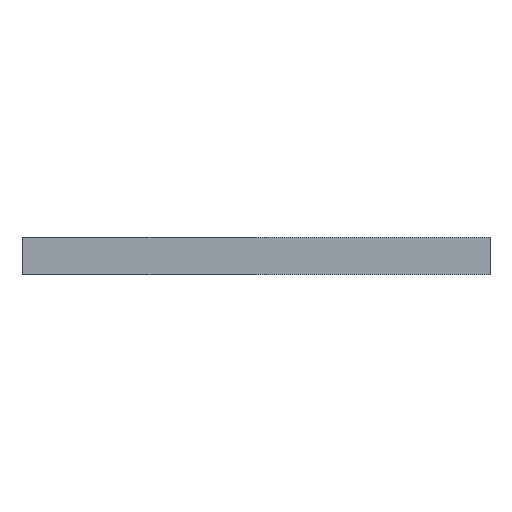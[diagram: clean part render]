
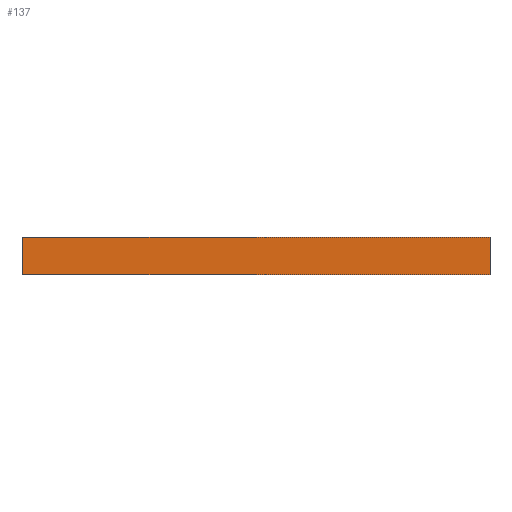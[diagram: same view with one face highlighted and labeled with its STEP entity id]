
A CAD part, front view. The second image highlights one B-rep face of the part: STEP entity #137.
In plain terms, the highlighted planar face has unit normal (0, -1, 0).
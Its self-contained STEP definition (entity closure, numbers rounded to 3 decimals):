
#21 = EDGE_CURVE('',#22,#24,#26,.T.);
#22 = VERTEX_POINT('',#23);
#23 = CARTESIAN_POINT('',(0.,0.,0.));
#24 = VERTEX_POINT('',#25);
#25 = CARTESIAN_POINT('',(0.,0.,1.2));
#26 = SURFACE_CURVE('',#27,(#31,#43),.PCURVE_S1.);
#27 = LINE('',#28,#29);
#28 = CARTESIAN_POINT('',(0.,0.,0.));
#29 = VECTOR('',#30,1.);
#30 = DIRECTION('',(0.,0.,1.));
#31 = PCURVE('',#32,#37);
#32 = PLANE('',#33);
#33 = AXIS2_PLACEMENT_3D('',#34,#35,#36);
#34 = CARTESIAN_POINT('',(0.,0.,0.));
#35 = DIRECTION('',(1.,0.,0.));
#36 = DIRECTION('',(0.,0.,1.));
#37 = DEFINITIONAL_REPRESENTATION('',(#38),#42);
#38 = LINE('',#39,#40);
#39 = CARTESIAN_POINT('',(0.,0.));
#40 = VECTOR('',#41,1.);
#41 = DIRECTION('',(1.,0.));
#42 = ( GEOMETRIC_REPRESENTATION_CONTEXT(2) 
PARAMETRIC_REPRESENTATION_CONTEXT() REPRESENTATION_CONTEXT('2D SPACE',''
  ) );
#43 = PCURVE('',#44,#49);
#44 = PLANE('',#45);
#45 = AXIS2_PLACEMENT_3D('',#46,#47,#48);
#46 = CARTESIAN_POINT('',(0.,0.,0.));
#47 = DIRECTION('',(0.,1.,0.));
#48 = DIRECTION('',(0.,0.,1.));
#49 = DEFINITIONAL_REPRESENTATION('',(#50),#54);
#50 = LINE('',#51,#52);
#51 = CARTESIAN_POINT('',(0.,0.));
#52 = VECTOR('',#53,1.);
#53 = DIRECTION('',(1.,0.));
#54 = ( GEOMETRIC_REPRESENTATION_CONTEXT(2) 
PARAMETRIC_REPRESENTATION_CONTEXT() REPRESENTATION_CONTEXT('2D SPACE',''
  ) );
#72 = PLANE('',#73);
#73 = AXIS2_PLACEMENT_3D('',#74,#75,#76);
#74 = CARTESIAN_POINT('',(0.,0.,0.));
#75 = DIRECTION('',(0.,0.,1.));
#76 = DIRECTION('',(1.,0.,0.));
#126 = PLANE('',#127);
#127 = AXIS2_PLACEMENT_3D('',#128,#129,#130);
#128 = CARTESIAN_POINT('',(0.,0.,1.2));
#129 = DIRECTION('',(0.,0.,1.));
#130 = DIRECTION('',(1.,0.,0.));
#137 = ADVANCED_FACE('',(#138),#44,.F.);
#138 = FACE_BOUND('',#139,.F.);
#139 = EDGE_LOOP('',(#140,#163,#164,#187));
#140 = ORIENTED_EDGE('',*,*,#141,.F.);
#141 = EDGE_CURVE('',#22,#142,#144,.T.);
#142 = VERTEX_POINT('',#143);
#143 = CARTESIAN_POINT('',(15.,0.,0.));
#144 = SURFACE_CURVE('',#145,(#149,#156),.PCURVE_S1.);
#145 = LINE('',#146,#147);
#146 = CARTESIAN_POINT('',(0.,0.,0.));
#147 = VECTOR('',#148,1.);
#148 = DIRECTION('',(1.,0.,0.));
#149 = PCURVE('',#44,#150);
#150 = DEFINITIONAL_REPRESENTATION('',(#151),#155);
#151 = LINE('',#152,#153);
#152 = CARTESIAN_POINT('',(0.,0.));
#153 = VECTOR('',#154,1.);
#154 = DIRECTION('',(0.,1.));
#155 = ( GEOMETRIC_REPRESENTATION_CONTEXT(2) 
PARAMETRIC_REPRESENTATION_CONTEXT() REPRESENTATION_CONTEXT('2D SPACE',''
  ) );
#156 = PCURVE('',#72,#157);
#157 = DEFINITIONAL_REPRESENTATION('',(#158),#162);
#158 = LINE('',#159,#160);
#159 = CARTESIAN_POINT('',(0.,0.));
#160 = VECTOR('',#161,1.);
#161 = DIRECTION('',(1.,0.));
#162 = ( GEOMETRIC_REPRESENTATION_CONTEXT(2) 
PARAMETRIC_REPRESENTATION_CONTEXT() REPRESENTATION_CONTEXT('2D SPACE',''
  ) );
#163 = ORIENTED_EDGE('',*,*,#21,.T.);
#164 = ORIENTED_EDGE('',*,*,#165,.T.);
#165 = EDGE_CURVE('',#24,#166,#168,.T.);
#166 = VERTEX_POINT('',#167);
#167 = CARTESIAN_POINT('',(15.,0.,1.2));
#168 = SURFACE_CURVE('',#169,(#173,#180),.PCURVE_S1.);
#169 = LINE('',#170,#171);
#170 = CARTESIAN_POINT('',(0.,0.,1.2));
#171 = VECTOR('',#172,1.);
#172 = DIRECTION('',(1.,0.,0.));
#173 = PCURVE('',#44,#174);
#174 = DEFINITIONAL_REPRESENTATION('',(#175),#179);
#175 = LINE('',#176,#177);
#176 = CARTESIAN_POINT('',(1.2,0.));
#177 = VECTOR('',#178,1.);
#178 = DIRECTION('',(0.,1.));
#179 = ( GEOMETRIC_REPRESENTATION_CONTEXT(2) 
PARAMETRIC_REPRESENTATION_CONTEXT() REPRESENTATION_CONTEXT('2D SPACE',''
  ) );
#180 = PCURVE('',#126,#181);
#181 = DEFINITIONAL_REPRESENTATION('',(#182),#186);
#182 = LINE('',#183,#184);
#183 = CARTESIAN_POINT('',(0.,0.));
#184 = VECTOR('',#185,1.);
#185 = DIRECTION('',(1.,0.));
#186 = ( GEOMETRIC_REPRESENTATION_CONTEXT(2) 
PARAMETRIC_REPRESENTATION_CONTEXT() REPRESENTATION_CONTEXT('2D SPACE',''
  ) );
#187 = ORIENTED_EDGE('',*,*,#188,.F.);
#188 = EDGE_CURVE('',#142,#166,#189,.T.);
#189 = SURFACE_CURVE('',#190,(#194,#201),.PCURVE_S1.);
#190 = LINE('',#191,#192);
#191 = CARTESIAN_POINT('',(15.,0.,0.));
#192 = VECTOR('',#193,1.);
#193 = DIRECTION('',(0.,0.,1.));
#194 = PCURVE('',#44,#195);
#195 = DEFINITIONAL_REPRESENTATION('',(#196),#200);
#196 = LINE('',#197,#198);
#197 = CARTESIAN_POINT('',(0.,15.));
#198 = VECTOR('',#199,1.);
#199 = DIRECTION('',(1.,0.));
#200 = ( GEOMETRIC_REPRESENTATION_CONTEXT(2) 
PARAMETRIC_REPRESENTATION_CONTEXT() REPRESENTATION_CONTEXT('2D SPACE',''
  ) );
#201 = PCURVE('',#202,#207);
#202 = PLANE('',#203);
#203 = AXIS2_PLACEMENT_3D('',#204,#205,#206);
#204 = CARTESIAN_POINT('',(15.,0.,0.));
#205 = DIRECTION('',(1.,0.,0.));
#206 = DIRECTION('',(0.,0.,1.));
#207 = DEFINITIONAL_REPRESENTATION('',(#208),#212);
#208 = LINE('',#209,#210);
#209 = CARTESIAN_POINT('',(0.,0.));
#210 = VECTOR('',#211,1.);
#211 = DIRECTION('',(1.,0.));
#212 = ( GEOMETRIC_REPRESENTATION_CONTEXT(2) 
PARAMETRIC_REPRESENTATION_CONTEXT() REPRESENTATION_CONTEXT('2D SPACE',''
  ) );
